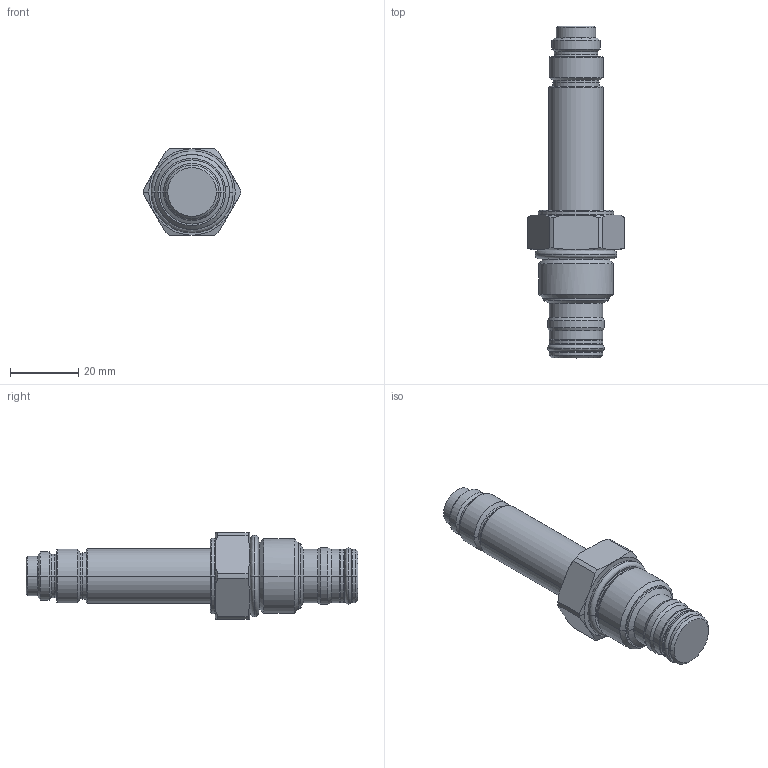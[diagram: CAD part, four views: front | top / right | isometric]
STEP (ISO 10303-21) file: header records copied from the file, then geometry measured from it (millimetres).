
FILE_DESCRIPTION((''),'2;1');
FILE_NAME('5122050_SW0001','2009-03-25T',('JCS'),(''),'PRO/ENGINEER BY PARAMETRIC TECHNOLOGY CORPORATION, 2008510','PRO/ENGINEER BY PARAMETRIC TECHNOLOGY CORPORATION, 2008510','');
FILE_SCHEMA(('CONFIG_CONTROL_DESIGN'));
Length unit declared in the file: inch
Products named in the file (1): 5122050_SW0001
Bounding box: 28.57 x 97.59 x 25.4 mm (x, y, z)
Volume: 25162.1 mm3; surface area: 7586.4 mm2
Topology: 3 solids, 3 shells, 148 faces, 314 edges, 177 vertices
Faces by surface type: cone 47, cylinder 44, torus 24, plane 17, revolution 16
Entity records: 4402 total; most frequent: CARTESIAN_POINT 1147, DIRECTION 727, ORIENTED_EDGE 628, EDGE_CURVE 314, AXIS2_PLACEMENT_3D 310, CIRCLE 178, VERTEX_POINT 177, EDGE_LOOP 157
